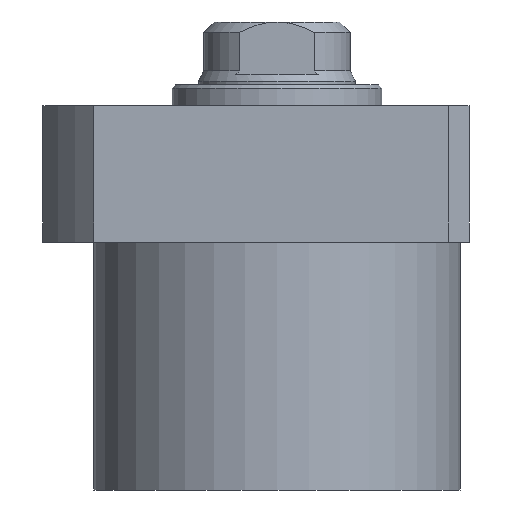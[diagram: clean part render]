
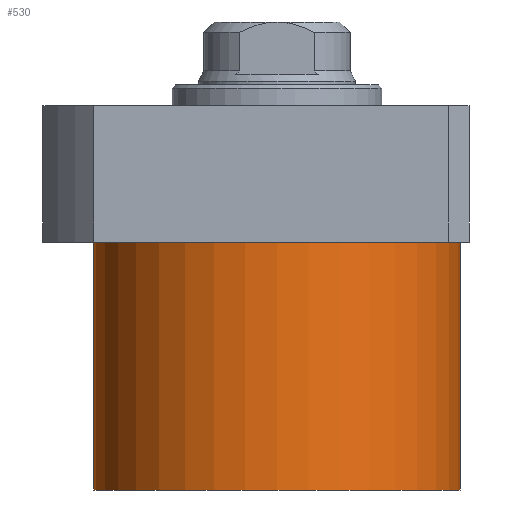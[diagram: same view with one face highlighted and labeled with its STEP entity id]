
A CAD part, front view. The second image highlights one B-rep face of the part: STEP entity #530.
In plain terms, the highlighted cylindrical face has radius 52.5 mm (diameter 105 mm), a partial arc.
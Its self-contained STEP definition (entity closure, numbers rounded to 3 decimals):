
#13 = CARTESIAN_POINT ( 'NONE',  ( -52.5, 0., -90.5 ) ) ;
#46 = EDGE_CURVE ( 'NONE', #467, #962, #1366, .T. ) ;
#132 = DIRECTION ( 'NONE',  ( 0., 0., 1. ) ) ;
#133 = CARTESIAN_POINT ( 'NONE',  ( -52.5, 0., -19.5 ) ) ;
#162 = LINE ( 'NONE', #1757, #918 ) ;
#168 = CARTESIAN_POINT ( 'NONE',  ( 0., 0., -90.5 ) ) ;
#172 = ORIENTED_EDGE ( 'NONE', *, *, #46, .F. ) ;
#173 = DIRECTION ( 'NONE',  ( 1., 0., 0. ) ) ;
#224 = ORIENTED_EDGE ( 'NONE', *, *, #296, .T. ) ;
#243 = DIRECTION ( 'NONE',  ( 0., 0., -1. ) ) ;
#296 = EDGE_CURVE ( 'NONE', #1380, #962, #997, .T. ) ;
#306 = DIRECTION ( 'NONE',  ( 0., 0., 1. ) ) ;
#467 = VERTEX_POINT ( 'NONE', #13 ) ;
#487 = DIRECTION ( 'NONE',  ( -1., 0., 0. ) ) ;
#505 = VERTEX_POINT ( 'NONE', #736 ) ;
#530 = ADVANCED_FACE ( 'NONE', ( #1698 ), #720, .T. ) ;
#601 = AXIS2_PLACEMENT_3D ( 'NONE', #168, #1035, #487 ) ;
#720 = CYLINDRICAL_SURFACE ( 'NONE', #1449, 52.5 ) ;
#736 = CARTESIAN_POINT ( 'NONE',  ( 52.5, 0., -90.5 ) ) ;
#804 = EDGE_LOOP ( 'NONE', ( #172, #1600, #1455, #224 ) ) ;
#918 = VECTOR ( 'NONE', #132, 1000. ) ;
#962 = VERTEX_POINT ( 'NONE', #133 ) ;
#997 = CIRCLE ( 'NONE', #1785, 52.5 ) ;
#1035 = DIRECTION ( 'NONE',  ( 0., 0., -1. ) ) ;
#1050 = DIRECTION ( 'NONE',  ( 0., 0., 1. ) ) ;
#1053 = CARTESIAN_POINT ( 'NONE',  ( -52.5, 0., -90.5 ) ) ;
#1208 = CARTESIAN_POINT ( 'NONE',  ( 0., 0., -90.5 ) ) ;
#1288 = DIRECTION ( 'NONE',  ( 1., 0., 0. ) ) ;
#1293 = CARTESIAN_POINT ( 'NONE',  ( 0., 0., -19.5 ) ) ;
#1334 = CIRCLE ( 'NONE', #601, 52.5 ) ;
#1366 = LINE ( 'NONE', #1053, #1715 ) ;
#1380 = VERTEX_POINT ( 'NONE', #1632 ) ;
#1409 = EDGE_CURVE ( 'NONE', #505, #467, #1334, .T. ) ;
#1449 = AXIS2_PLACEMENT_3D ( 'NONE', #1208, #1050, #173 ) ;
#1455 = ORIENTED_EDGE ( 'NONE', *, *, #1483, .T. ) ;
#1483 = EDGE_CURVE ( 'NONE', #505, #1380, #162, .T. ) ;
#1600 = ORIENTED_EDGE ( 'NONE', *, *, #1409, .F. ) ;
#1632 = CARTESIAN_POINT ( 'NONE',  ( 52.5, 0., -19.5 ) ) ;
#1698 = FACE_OUTER_BOUND ( 'NONE', #804, .T. ) ;
#1715 = VECTOR ( 'NONE', #306, 1000. ) ;
#1757 = CARTESIAN_POINT ( 'NONE',  ( 52.5, 0., -90.5 ) ) ;
#1785 = AXIS2_PLACEMENT_3D ( 'NONE', #1293, #243, #1288 ) ;
